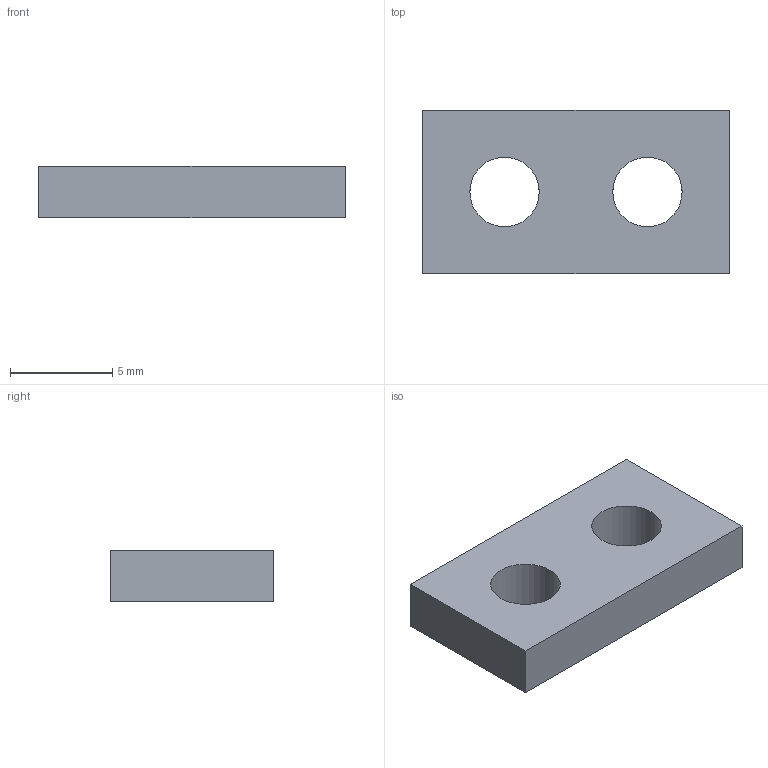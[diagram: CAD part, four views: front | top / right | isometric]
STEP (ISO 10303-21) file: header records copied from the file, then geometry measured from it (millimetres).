
FILE_DESCRIPTION(('Open CASCADE Model'),'2;1');
FILE_NAME('P13-line_clamp.step', '', ('Noah Wilson'), (''), '', '', '');
FILE_SCHEMA(('AUTOMOTIVE_DESIGN { 1 0 10303 214 1 1 1 1 }'));
Length unit declared in the file: millimetre
Products named in the file (1): COMPOUND
Bounding box: 15 x 8 x 2.5 mm (x, y, z)
Volume: 254.6 mm3; surface area: 372.1 mm2
Topology: 1 solids, 1 shells, 8 faces, 18 edges, 12 vertices
Faces by surface type: plane 6, cylinder 2
Full cylindrical faces by diameter (mm): 3.4 x2
Entity records: 478 total; most frequent: DIRECTION 76, CARTESIAN_POINT 75, LINE 46, VECTOR 46, ORIENTED_EDGE 36, PCURVE 36, DEFINITIONAL_REPRESENTATION 36, EDGE_CURVE 18
